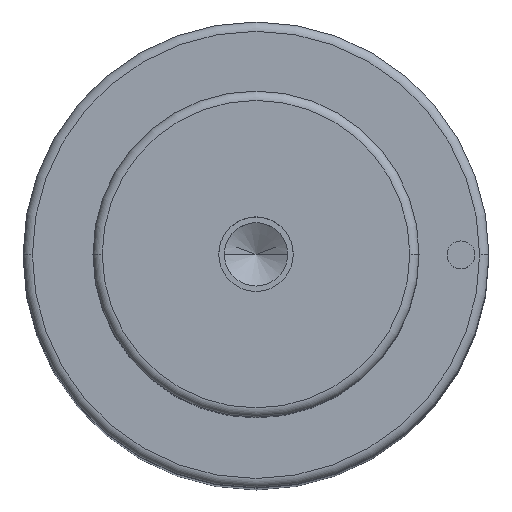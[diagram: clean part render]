
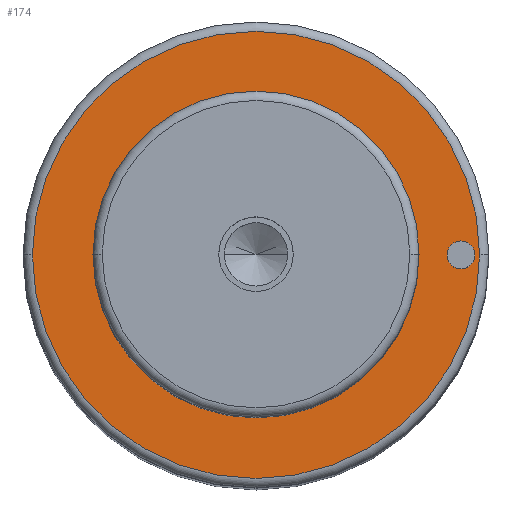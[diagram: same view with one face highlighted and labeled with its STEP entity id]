
A CAD part, top view. The second image highlights one B-rep face of the part: STEP entity #174.
In plain terms, the highlighted planar face has unit normal (0, 0, 1).
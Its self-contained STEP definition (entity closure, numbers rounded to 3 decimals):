
#105=PLANE('',#834);
#115=FACE_BOUND('',#275,.T.);
#116=FACE_BOUND('',#276,.T.);
#117=FACE_BOUND('',#277,.T.);
#174=ADVANCED_FACE('',(#115,#116,#117),#105,.T.);
#275=EDGE_LOOP('',(#455,#456));
#276=EDGE_LOOP('',(#457,#458));
#277=EDGE_LOOP('',(#459,#460));
#323=CIRCLE('',#802,17.5);
#324=CIRCLE('',#804,17.5);
#328=CIRCLE('',#809,24.);
#329=CIRCLE('',#811,24.);
#341=CIRCLE('',#832,1.5);
#342=CIRCLE('',#833,1.5);
#455=ORIENTED_EDGE('',*,*,#642,.F.);
#456=ORIENTED_EDGE('',*,*,#643,.F.);
#457=ORIENTED_EDGE('',*,*,#661,.F.);
#458=ORIENTED_EDGE('',*,*,#662,.F.);
#459=ORIENTED_EDGE('',*,*,#638,.T.);
#460=ORIENTED_EDGE('',*,*,#636,.T.);
#570=VERTEX_POINT('',#1183);
#571=VERTEX_POINT('',#1185);
#572=VERTEX_POINT('',#1191);
#575=VERTEX_POINT('',#1196);
#584=VERTEX_POINT('',#1235);
#585=VERTEX_POINT('',#1236);
#636=EDGE_CURVE('',#571,#570,#323,.T.);
#638=EDGE_CURVE('',#570,#571,#324,.T.);
#642=EDGE_CURVE('',#575,#572,#328,.T.);
#643=EDGE_CURVE('',#572,#575,#329,.T.);
#661=EDGE_CURVE('',#584,#585,#341,.T.);
#662=EDGE_CURVE('',#585,#584,#342,.T.);
#802=AXIS2_PLACEMENT_3D('',#1184,#943,#944);
#804=AXIS2_PLACEMENT_3D('',#1188,#948,#949);
#809=AXIS2_PLACEMENT_3D('',#1197,#958,#959);
#811=AXIS2_PLACEMENT_3D('',#1199,#962,#963);
#832=AXIS2_PLACEMENT_3D('',#1234,#1010,#1011);
#833=AXIS2_PLACEMENT_3D('',#1237,#1012,#1013);
#834=AXIS2_PLACEMENT_3D('',#1238,#1014,#1015);
#943=DIRECTION('',(0.,0.,-1.));
#944=DIRECTION('',(0.,1.,0.));
#948=DIRECTION('',(0.,0.,-1.));
#949=DIRECTION('',(0.,-1.,0.));
#958=DIRECTION('',(0.,0.,-1.));
#959=DIRECTION('',(0.,1.,0.));
#962=DIRECTION('',(0.,0.,-1.));
#963=DIRECTION('',(0.,-1.,0.));
#1010=DIRECTION('',(0.,0.,1.));
#1011=DIRECTION('',(0.,1.,0.));
#1012=DIRECTION('',(0.,0.,1.));
#1013=DIRECTION('',(0.,-1.,0.));
#1014=DIRECTION('',(0.,0.,1.));
#1015=DIRECTION('',(0.,-1.,0.));
#1183=CARTESIAN_POINT('',(-17.5,0.,133.));
#1184=CARTESIAN_POINT('',(0.,0.,133.));
#1185=CARTESIAN_POINT('',(17.5,0.,133.));
#1188=CARTESIAN_POINT('',(0.,0.,133.));
#1191=CARTESIAN_POINT('',(-24.,0.,133.));
#1196=CARTESIAN_POINT('',(24.,0.,133.));
#1197=CARTESIAN_POINT('',(0.,0.,133.));
#1199=CARTESIAN_POINT('',(0.,0.,133.));
#1234=CARTESIAN_POINT('',(22.,0.,133.));
#1235=CARTESIAN_POINT('',(20.5,0.,133.));
#1236=CARTESIAN_POINT('',(23.5,0.,133.));
#1237=CARTESIAN_POINT('',(22.,0.,133.));
#1238=CARTESIAN_POINT('',(0.,0.,133.));
